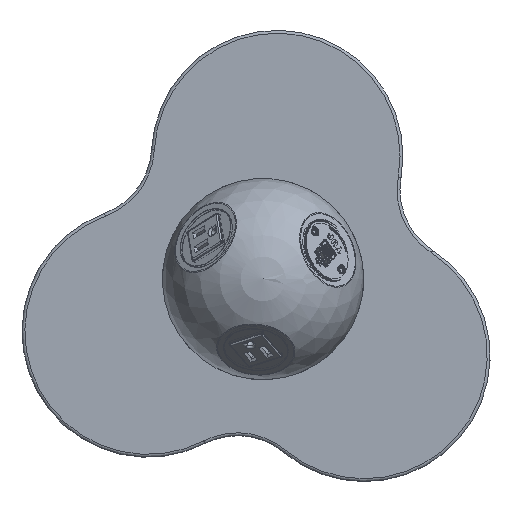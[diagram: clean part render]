
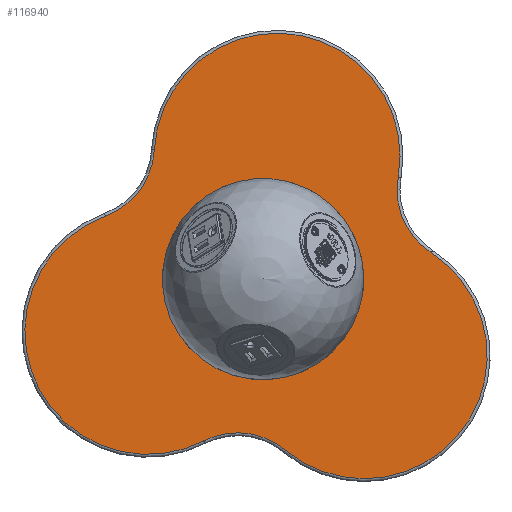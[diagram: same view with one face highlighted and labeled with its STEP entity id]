
A CAD part, top view. The second image highlights one B-rep face of the part: STEP entity #116940.
In plain terms, the highlighted planar face has unit normal (0, 0, 1).
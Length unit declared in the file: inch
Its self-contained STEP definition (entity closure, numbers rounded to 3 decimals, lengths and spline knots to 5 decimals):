
#116674=CARTESIAN_POINT('',(0.45787,0.90807,-31.92702));
#116675=VERTEX_POINT('',#116674);
#116676=CARTESIAN_POINT('',(-0.40682,-0.26422,-31.92702));
#116677=DIRECTION('',(0.,0.,-1.0));
#116678=DIRECTION('',(-0.594,-0.805,0.));
#116679=AXIS2_PLACEMENT_3D('',#116676,#116677,#116678);
#116680=CIRCLE('',#116679,1.45669);
#116681=EDGE_CURVE('',#116675,#116675,#116680,.T.);
#116734=CARTESIAN_POINT('',(0.20827,-4.89315,-31.92702));
#116735=VERTEX_POINT('',#116734);
#116743=CARTESIAN_POINT('',(-2.03411,-4.64112,-31.92702));
#116744=VERTEX_POINT('',#116743);
#116745=CARTESIAN_POINT('',(-1.10372,-6.46474,-31.92702));
#116746=DIRECTION('',(0.,0.,1.0));
#116747=DIRECTION('',(0.112,0.994,0.));
#116748=AXIS2_PLACEMENT_3D('',#116745,#116746,#116747);
#116749=CIRCLE('',#116748,2.04724);
#116750=EDGE_CURVE('',#116735,#116744,#116749,.T.);
#116768=CARTESIAN_POINT('',(-4.72313,1.51756,-31.92702));
#116769=VERTEX_POINT('',#116768);
#116779=CARTESIAN_POINT('',(-3.56389,-1.64267,-31.92702));
#116780=DIRECTION('',(0.,0.,-1.0));
#116781=DIRECTION('',(-0.916,-0.4,0.));
#116782=AXIS2_PLACEMENT_3D('',#116779,#116780,#116781);
#116783=CIRCLE('',#116782,3.36614);
#116784=EDGE_CURVE('',#116744,#116769,#116783,.T.);
#116794=CARTESIAN_POINT('',(-3.38367,3.3335,-31.92702));
#116795=VERTEX_POINT('',#116794);
#116813=CARTESIAN_POINT('',(-5.42817,3.43957,-31.92702));
#116814=DIRECTION('',(0.,0.,1.0));
#116815=DIRECTION('',(0.805,-0.594,0.));
#116816=AXIS2_PLACEMENT_3D('',#116813,#116814,#116815);
#116817=CIRCLE('',#116816,2.04724);
#116818=EDGE_CURVE('',#116769,#116795,#116817,.T.);
#116828=CARTESIAN_POINT('',(3.29441,2.58292,-31.92702));
#116829=VERTEX_POINT('',#116828);
#116847=CARTESIAN_POINT('',(-0.02205,3.1591,-31.92702));
#116848=DIRECTION('',(0.,0.,-1.0));
#116849=DIRECTION('',(0.112,0.994,0.));
#116850=AXIS2_PLACEMENT_3D('',#116847,#116848,#116849);
#116851=CIRCLE('',#116850,3.36614);
#116852=EDGE_CURVE('',#116795,#116829,#116851,.T.);
#116862=CARTESIAN_POINT('',(4.19733,0.51495,-31.92702));
#116863=VERTEX_POINT('',#116862);
#116879=CARTESIAN_POINT('',(5.31144,2.2325,-31.92702));
#116880=DIRECTION('',(0.,0.,1.0));
#116881=DIRECTION('',(-0.916,-0.4,0.));
#116882=AXIS2_PLACEMENT_3D('',#116879,#116880,#116881);
#116883=CIRCLE('',#116882,2.04724);
#116884=EDGE_CURVE('',#116829,#116863,#116883,.T.);
#116897=CARTESIAN_POINT('',(2.36549,-2.3091,-31.92702));
#116898=DIRECTION('',(0.,0.,-1.0));
#116899=DIRECTION('',(0.805,-0.594,0.));
#116900=AXIS2_PLACEMENT_3D('',#116897,#116898,#116899);
#116901=CIRCLE('',#116900,3.36614);
#116902=EDGE_CURVE('',#116863,#116735,#116901,.T.);
#116924=CARTESIAN_POINT('',(-0.40682,-0.26422,-31.92702));
#116925=DIRECTION('',(0.0,0.0,1.0));
#116926=DIRECTION('',(0.594,0.805,0.0));
#116927=AXIS2_PLACEMENT_3D('',#116924,#116925,#116926);
#116928=PLANE('',#116927);
#116929=ORIENTED_EDGE('',*,*,#116750,.F.);
#116930=ORIENTED_EDGE('',*,*,#116902,.F.);
#116931=ORIENTED_EDGE('',*,*,#116884,.F.);
#116932=ORIENTED_EDGE('',*,*,#116852,.F.);
#116933=ORIENTED_EDGE('',*,*,#116818,.F.);
#116934=ORIENTED_EDGE('',*,*,#116784,.F.);
#116935=EDGE_LOOP('',(#116929,#116930,#116931,#116932,#116933,#116934));
#116936=FACE_OUTER_BOUND('',#116935,.T.);
#116937=ORIENTED_EDGE('',*,*,#116681,.T.);
#116938=EDGE_LOOP('',(#116937));
#116939=FACE_BOUND('',#116938,.T.);
#116940=ADVANCED_FACE('',(#116936,#116939),#116928,.T.);
